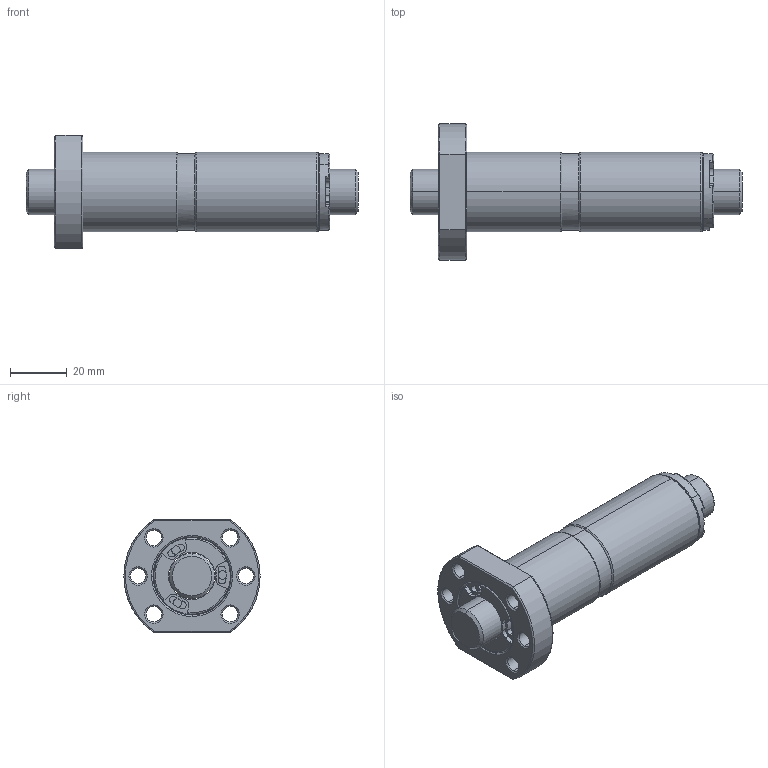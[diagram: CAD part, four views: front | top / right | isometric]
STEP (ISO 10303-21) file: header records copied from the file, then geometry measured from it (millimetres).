
FILE_DESCRIPTION (( 'STEP AP203' ), '1' );
FILE_NAME ('DFSR01610B1D-C.STEP', '2020-06-17T02:14:14', ( '' ), ( '' ), 'SwSTEP 2.0', 'SolidWorks 2013', '' );
FILE_SCHEMA (( 'CONFIG_CONTROL_DESIGN' ));
Length unit declared in the file: millimetre
Products named in the file (1): DFSR01610B1D-C
Bounding box: 117 x 48 x 40 mm (x, y, z)
Volume: 69735 mm3; surface area: 25376.6 mm2
Topology: 2 solids, 2 shells, 238 faces, 593 edges, 371 vertices
Faces by surface type: cylinder 120, plane 68, cone 28, bspline 22
Entity records: 10050 total; most frequent: CARTESIAN_POINT 4192, DIRECTION 1302, ORIENTED_EDGE 1186, EDGE_CURVE 593, AXIS2_PLACEMENT_3D 548, VERTEX_POINT 371, CIRCLE 331, EDGE_LOOP 268
